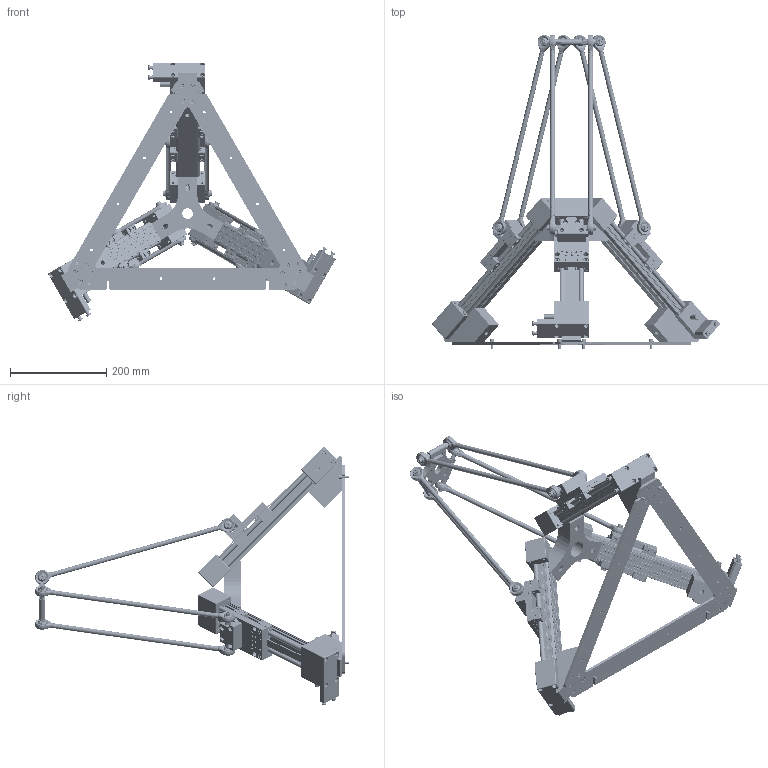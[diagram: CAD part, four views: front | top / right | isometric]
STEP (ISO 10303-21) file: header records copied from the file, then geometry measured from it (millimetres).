
FILE_DESCRIPTION(/* description */ ('DeltaRobot im Schaum verpackt, ohne Motoren'),/* implementation_level */ '2;1');
FILE_NAME(/* name */ 'I:\Gleitlager\Konstruktion\SERIE NEU (im Aufbau!!)\drylin E\Deltaroboter\Modelle\DLE-DR-0005\DLE-DR-0005.stp',/* time_stamp */ '2019-04-09T12:24:47+02:00',/* author */ ('fkoeching'),/* organization */ (''),/* preprocessor_version */ 'ST-DEVELOPER v17',/* originating_system */ 'Autodesk Inventor 2018',/* authorisation */ '');
FILE_SCHEMA (('AUTOMOTIVE_DESIGN { 1 0 10303 214 3 1 1 }'));
Products named in the file (58): DLE-DR-0005; ETY-DR-0008; ETY-DR-0013; DLE-DR-ZLW-0003; ZSX-104001; ZTL-104002; SAXT-104001; ZTL-10400S-V; SAWT-104002; NOR-10412; ZR-104001; ZR-104001-XX; ZSY-104002; NOR-10735; ZTF-104004; SAXT-104004; SAXT-104002; NOR-10614; ZTF-10400S-V; SAWT-104001; ZTY-104035; NOR-20901; JTEM-10; ZTZ-104009; NOR-10604; AK-DR-0003; ZTY-104004; MH-06; NOR-20114; ZS-104001-WJ200UMA; ZSY-104001; WJ200UMA-01-10-AL; WMA-01-10-AL; WRZ-011007; J200UMA-01-10; NOR-10601; ETY-DR-0011; ZWY-104001; ETY-DR-0010; ETY-DR-0009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
Assembly tree (195 placements, depth 5):
  DLE-DR-0005
    ETY-DR-0008
    ETY-DR-0013  x3
    DLE-DR-ZLW-0003  x3
      ZSX-104001
      ZTL-104002
        SAXT-104001
        SAXT-104002
        NOR-10614  x2
        ZTL-10400S-V
          SAWT-104002
          NOR-10412  x4
          NOR-10604  x4
          JTEM-10  x4
          NOR-20901  x2
          ZTY-104035  x2
        ZTZ-104009  x2
      ZR-104001
        ZR-104001-XX
        NOR-10735  x2
        ZSY-104002  x2
      ZTF-104004
        SAXT-104004
        SAXT-104002
        NOR-10614  x2
        ZTF-10400S-V
          JTEM-10  x4
          SAWT-104001
          ZTY-104035  x2
          NOR-20901  x2
        ZTZ-104009  x2
        NOR-10604  x2
      AK-DR-0003
        ZTY-104004
        MH-06  x2
        NOR-10629  x2
        NOR-20114  x4
      ZS-104001-WJ200UMA
        ZSY-104001
        WJ200UMA-01-10-AL  x4
          WMA-01-10-AL
          WRZ-011007
          J200UMA-01-10
        NOR-10601  x4
    ETY-DR-0011
    ZWY-104001  x3
    ETY-DR-0010  x3
    KDGM-10-A-ER-J   x6
      KARM-10 CL
        _D_KARM-10 CL KDGM Kopfteil
        WKM-10-14
      Rohr 8-10
    ETY-DR-0012  x12
    ETY-DR-0009
    NOR-10737  x12
    NOR-20602  x6
    NOR-10514  x15
    NOR-10610  x3
    NOR-10628  x12
    NOR-11030  x12
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Bounding box: 596.24 x 651.25 x 536.97 mm (x, y, z)
Volume: 3098723 mm3; surface area: 1646816.1 mm2
Topology: 350 solids, 350 shells, 13782 faces, 36835 edges, 24147 vertices
Faces by surface type: plane 6905, cylinder 4028, bspline 1152, cone 981, torus 506, sphere 210
Full cylindrical faces by diameter (mm): 2.5 x3, 3 x4, 3.2 x3, 3.5 x4, 4 x42, 4.018 x12, 4.134 x72, 4.459 x6, 4.5 x24, 4.917 x66, 5 x148, 5.3 x4, 5.4 x3, 5.5 x55, 5.6 x10, 5.96 x12, 6 x96, 6.2 x24, 6.6 x42, 6.647 x6, 7 x12, 7.2 x12, 8 x54, 8.5 x40, 9.43 x12, 9.5 x24, 10 x154, 10.2 x24, 11 x48, 11.34 x6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
Entity records: 85509 total; most frequent: CARTESIAN_POINT 23245, DIRECTION 12873, ORIENTED_EDGE 12334, EDGE_CURVE 6167, AXIS2_PLACEMENT_3D 4782, VERTEX_POINT 4095, LINE 3309, VECTOR 3309
